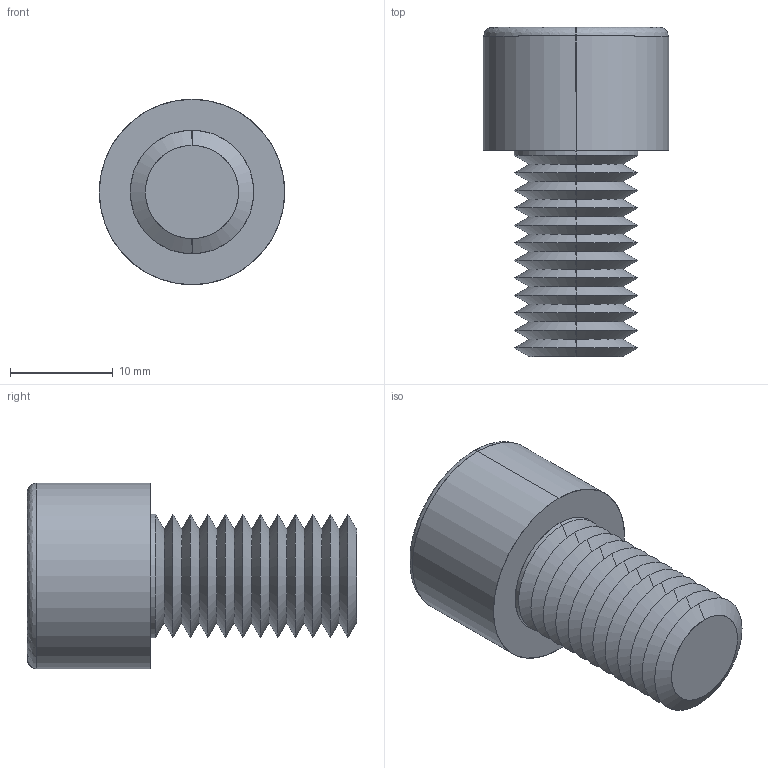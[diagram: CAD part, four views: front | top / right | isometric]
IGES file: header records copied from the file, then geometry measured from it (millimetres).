
Start section: SolidWorks IGES file using analytic representation for surfaces
Global section: file name: C:\Users\ianosborn\Desktop\N0007.91N_v2\N0007.91N_v2_20250519_IGES\91N.120.0200.igs; native system: SolidWorks 2019; preprocessor: SolidWorks 2019; author: IanOsborn; date: 250520.095601; units: millimetre
Bounding box: 18 x 32 x 18 mm (x, y, z)
Surface area: 2782.5 mm2 (no closed solid volume)
Topology: 0 solids, 0 shells, 76 faces, 549 edges, 547 vertices
Faces by surface type: revolution 59, bspline 17
